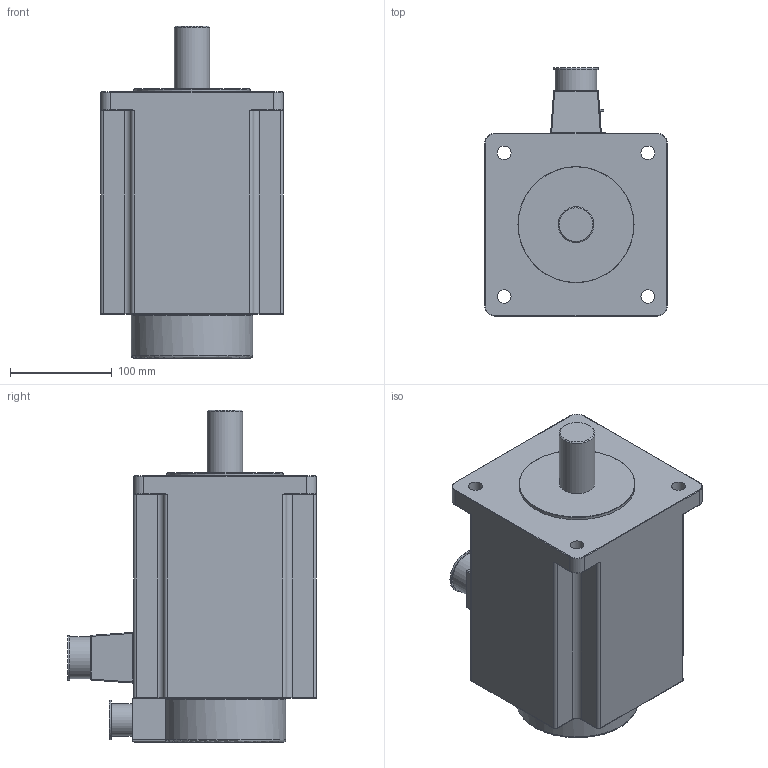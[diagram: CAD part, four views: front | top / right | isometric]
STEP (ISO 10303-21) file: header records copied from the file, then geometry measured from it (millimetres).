
FILE_DESCRIPTION(/* description */ (''),/* implementation_level */ '2;1');
FILE_NAME(/* name */ '180MAH27015.stp',/* time_stamp */ '2019-11-22T13:56:45+08:00',/* author */ (''),/* organization */ (''),/* preprocessor_version */ 'ST-DEVELOPER v16',/* originating_system */ 'SIEMENS PLM Software NX 10.0',/* authorisation */ '');
FILE_SCHEMA (('CONFIG_CONTROL_DESIGN'));
Length unit declared in the file: millimetre
Products named in the file (1): 180MAH27015
Bounding box: 180 x 245 x 327.01 mm (x, y, z)
Volume: 7146208.9 mm3; surface area: 262216.1 mm2
Topology: 1 solids, 1 shells, 160 faces, 365 edges, 207 vertices
Faces by surface type: cylinder 74, plane 34, torus 34, bspline 12, sphere 4, cone 2
Full cylindrical faces by diameter (mm): 13.5 x4, 32 x1, 35 x1, 39 x1, 41 x1, 44 x1, 114.3 x1
Entity records: 4538 total; most frequent: CARTESIAN_POINT 943, DIRECTION 801, ORIENTED_EDGE 676, EDGE_CURVE 338, AXIS2_PLACEMENT_3D 334, VERTEX_POINT 201, EDGE_LOOP 189, CIRCLE 175
